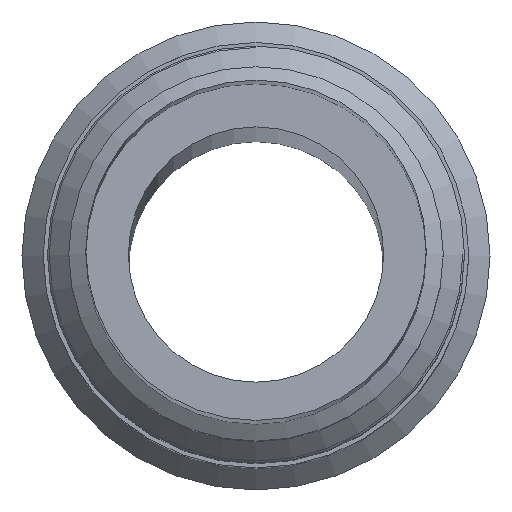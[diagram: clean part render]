
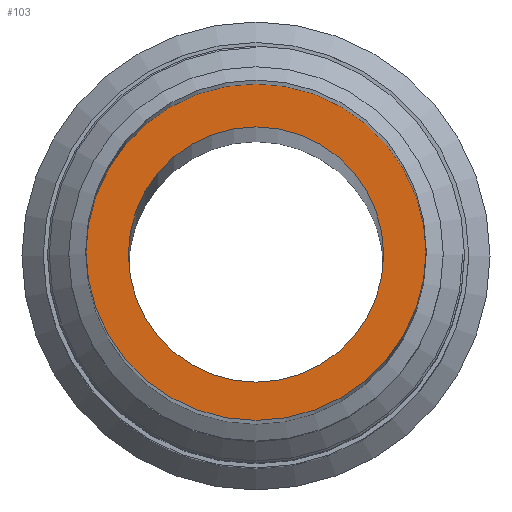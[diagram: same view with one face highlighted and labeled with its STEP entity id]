
A CAD part, top view. The second image highlights one B-rep face of the part: STEP entity #103.
In plain terms, the highlighted planar face has unit normal (0, 0, 1).
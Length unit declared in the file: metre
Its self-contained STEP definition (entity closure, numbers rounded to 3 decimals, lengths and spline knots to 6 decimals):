
#103=ADVANCED_FACE('',(#229,#230),#231,.T.);
#139=EDGE_CURVE('',#294,#294,#295,.T.);
#141=EDGE_CURVE('',#297,#297,#298,.T.);
#229=FACE_BOUND('',#400,.T.);
#230=FACE_OUTER_BOUND('',#401,.T.);
#231=PLANE('',#402);
#294=VERTEX_POINT('',#471);
#295=CIRCLE('',#472,0.003);
#297=VERTEX_POINT('',#475);
#298=CIRCLE('',#476,0.0044);
#400=EDGE_LOOP('',(#595));
#401=EDGE_LOOP('',(#596));
#402=AXIS2_PLACEMENT_3D('',#597,#598,#599);
#471=CARTESIAN_POINT('',(0.003,0.,0.02));
#472=AXIS2_PLACEMENT_3D('',#700,#701,#702);
#475=CARTESIAN_POINT('',(0.0044,0.,0.02));
#476=AXIS2_PLACEMENT_3D('',#703,#704,#705);
#595=ORIENTED_EDGE('',*,*,#139,.T.);
#596=ORIENTED_EDGE('',*,*,#141,.T.);
#597=CARTESIAN_POINT('',(0.0,0.,0.02));
#598=DIRECTION('',(0.0,0.0,1.0));
#599=DIRECTION('',(1.0,0.0,0.0));
#700=CARTESIAN_POINT('',(0.0,0.,0.02));
#701=DIRECTION('',(0.0,0.0,-1.0));
#702=DIRECTION('',(1.0,0.0,0.0));
#703=CARTESIAN_POINT('',(0.0,0.,0.02));
#704=DIRECTION('',(0.0,0.0,1.0));
#705=DIRECTION('',(1.0,0.0,-0.0));
